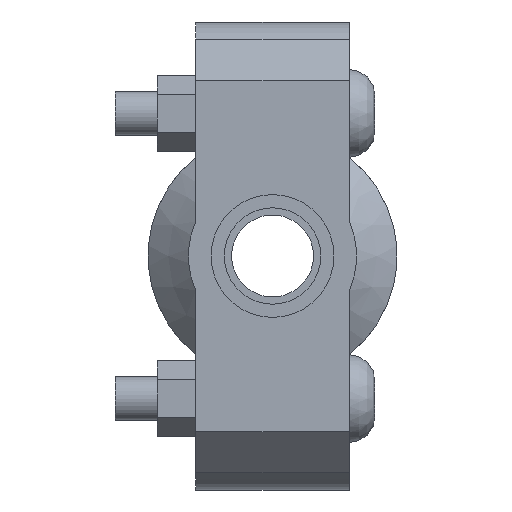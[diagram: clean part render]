
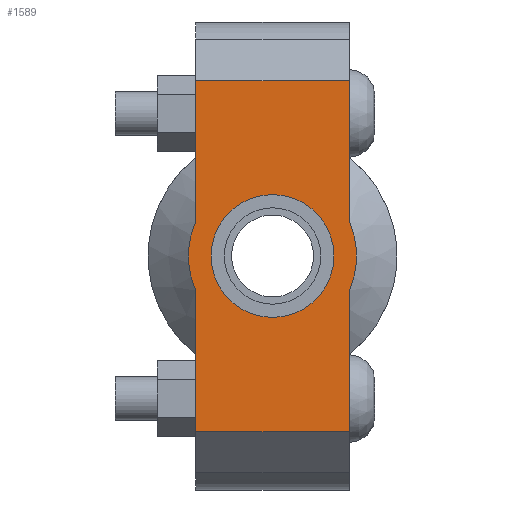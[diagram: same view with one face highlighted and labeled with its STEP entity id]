
A CAD part, left-side view. The second image highlights one B-rep face of the part: STEP entity #1589.
In plain terms, the highlighted planar face has unit normal (-1, 0, 0) as drawn and (0, 0, 1) by its records, which use the part's own axes.
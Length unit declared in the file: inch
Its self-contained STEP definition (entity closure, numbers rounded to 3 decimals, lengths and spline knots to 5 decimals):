
#144=LINE('',#2747,#241);
#159=LINE('',#2806,#256);
#167=LINE('',#2836,#264);
#169=LINE('',#2839,#266);
#170=LINE('',#2844,#267);
#171=LINE('',#2845,#268);
#241=VECTOR('',#2239,0.3937);
#256=VECTOR('',#2274,0.3937);
#264=VECTOR('',#2294,0.3937);
#266=VECTOR('',#2298,0.3937);
#267=VECTOR('',#2303,0.3937);
#268=VECTOR('',#2304,0.3937);
#332=FACE_BOUND('',#509,.T.);
#400=FACE_OUTER_BOUND('',#508,.T.);
#508=EDGE_LOOP('',(#1290,#1291,#1292,#1293,#1294,#1295,#1296,#1297));
#509=EDGE_LOOP('',(#1298));
#591=CIRCLE('',#1817,0.525);
#615=CIRCLE('',#1869,0.719);
#616=CIRCLE('',#1870,0.719);
#687=VERTEX_POINT('',#2573);
#728=VERTEX_POINT('',#2744);
#729=VERTEX_POINT('',#2746);
#750=VERTEX_POINT('',#2801);
#751=VERTEX_POINT('',#2805);
#760=VERTEX_POINT('',#2831);
#761=VERTEX_POINT('',#2835);
#762=VERTEX_POINT('',#2841);
#763=VERTEX_POINT('',#2843);
#851=EDGE_CURVE('',#687,#687,#591,.T.);
#908=EDGE_CURVE('',#729,#728,#144,.T.);
#933=EDGE_CURVE('',#751,#750,#159,.T.);
#946=EDGE_CURVE('',#761,#760,#167,.T.);
#948=EDGE_CURVE('',#761,#728,#169,.T.);
#949=EDGE_CURVE('',#760,#762,#615,.T.);
#950=EDGE_CURVE('',#762,#763,#170,.T.);
#951=EDGE_CURVE('',#751,#763,#171,.T.);
#952=EDGE_CURVE('',#750,#729,#616,.T.);
#1290=ORIENTED_EDGE('',*,*,#948,.F.);
#1291=ORIENTED_EDGE('',*,*,#946,.T.);
#1292=ORIENTED_EDGE('',*,*,#949,.T.);
#1293=ORIENTED_EDGE('',*,*,#950,.T.);
#1294=ORIENTED_EDGE('',*,*,#951,.F.);
#1295=ORIENTED_EDGE('',*,*,#933,.T.);
#1296=ORIENTED_EDGE('',*,*,#952,.T.);
#1297=ORIENTED_EDGE('',*,*,#908,.T.);
#1298=ORIENTED_EDGE('',*,*,#851,.T.);
#1429=PLANE('',#1868);
#1589=ADVANCED_FACE('',(#400,#332),#1429,.T.);
#1817=AXIS2_PLACEMENT_3D('',#2575,#2129,#2130);
#1868=AXIS2_PLACEMENT_3D('',#2840,#2299,#2300);
#1869=AXIS2_PLACEMENT_3D('',#2842,#2301,#2302);
#1870=AXIS2_PLACEMENT_3D('',#2846,#2305,#2306);
#2129=DIRECTION('center_axis',(0.,0.,-1.));
#2130=DIRECTION('ref_axis',(-1.,0.,0.));
#2239=DIRECTION('',(-1.,0.,0.));
#2274=DIRECTION('',(-1.,0.,0.));
#2294=DIRECTION('',(1.,0.,0.));
#2298=DIRECTION('',(0.,1.,0.));
#2299=DIRECTION('center_axis',(0.,0.,1.));
#2300=DIRECTION('ref_axis',(1.,0.,0.));
#2301=DIRECTION('center_axis',(0.,0.,1.));
#2302=DIRECTION('ref_axis',(-1.,0.,0.));
#2303=DIRECTION('',(1.,0.,0.));
#2304=DIRECTION('',(0.,-1.,0.));
#2305=DIRECTION('center_axis',(0.,0.,1.));
#2306=DIRECTION('ref_axis',(-1.,0.,0.));
#2573=CARTESIAN_POINT('',(0.525,0.,0.875));
#2575=CARTESIAN_POINT('Origin',(0.,0.,0.875));
#2744=CARTESIAN_POINT('',(-1.5,0.656,0.875));
#2746=CARTESIAN_POINT('',(-0.29432,0.656,0.875));
#2747=CARTESIAN_POINT('',(2.,0.656,0.875));
#2801=CARTESIAN_POINT('',(0.29432,0.656,0.875));
#2805=CARTESIAN_POINT('',(1.5,0.656,0.875));
#2806=CARTESIAN_POINT('',(2.,0.656,0.875));
#2831=CARTESIAN_POINT('',(-0.29432,-0.656,0.875));
#2835=CARTESIAN_POINT('',(-1.5,-0.656,0.875));
#2836=CARTESIAN_POINT('',(-2.,-0.656,0.875));
#2839=CARTESIAN_POINT('',(-1.5,0.328,0.875));
#2840=CARTESIAN_POINT('Origin',(0.,0.,
0.875));
#2841=CARTESIAN_POINT('',(0.29432,-0.656,0.875));
#2842=CARTESIAN_POINT('Origin',(0.,0.,0.875));
#2843=CARTESIAN_POINT('',(1.5,-0.656,0.875));
#2844=CARTESIAN_POINT('',(-2.,-0.656,0.875));
#2845=CARTESIAN_POINT('',(1.5,-0.328,0.875));
#2846=CARTESIAN_POINT('Origin',(0.,0.,0.875));
